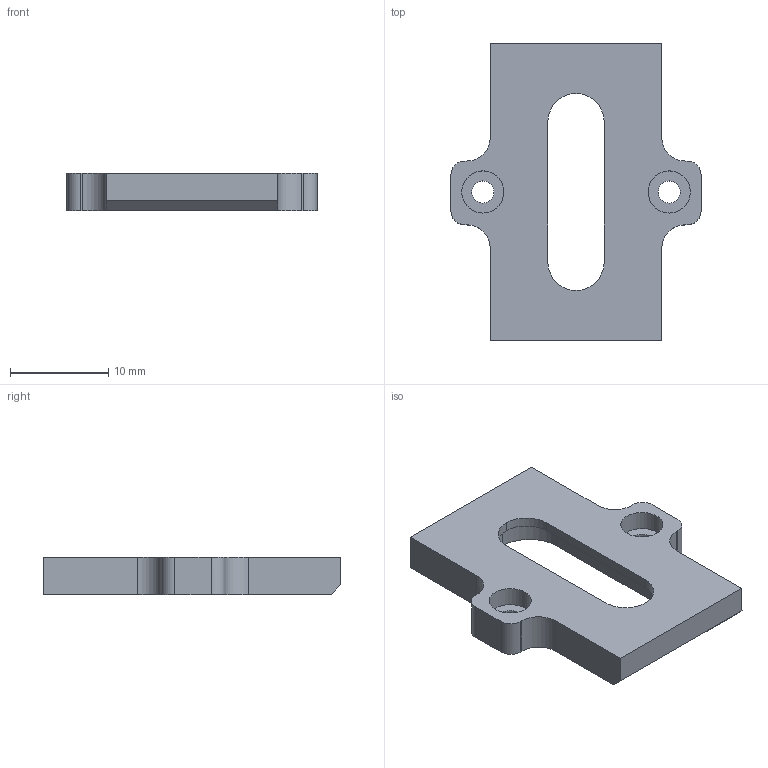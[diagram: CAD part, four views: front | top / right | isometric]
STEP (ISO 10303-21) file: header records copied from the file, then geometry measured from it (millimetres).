
FILE_DESCRIPTION(('HOOPS Exchange Step'),'2;1');
FILE_NAME('/private/var/mobile/Containers/Data/Application/4B1A7BF2-BF60-4167-B720-BE744F57E5F5/tmp/export/temp_export','2026-08-18T20:57:33+19:00',('mobile'),('Shapr3D Limited'),'HOOPS Exchange 2026.3','Shapr3D','Authorized');
FILE_SCHEMA( ('AP242_MANAGED_MODEL_BASED_3D_ENGINEERING_MIM_LF {1 0 10303 442 1 1 4}') );
Length unit declared in the file: millimetre
Products named in the file (3): UHG; Front; root
Assembly tree (2 placements, depth 3):
  root
    Front
      UHG
Bounding box: 25.5 x 30.39 x 3.85 mm (x, y, z)
Volume: 1510.7 mm3; surface area: 1614 mm2
Topology: 1 solids, 1 shells, 44 faces, 117 edges, 78 vertices
Faces by surface type: plane 24, cylinder 20
Full cylindrical faces by diameter (mm): 2.25 x2, 4.3 x2
Entity records: 1479 total; most frequent: DIRECTION 257, CARTESIAN_POINT 245, ORIENTED_EDGE 234, EDGE_CURVE 117, AXIS2_PLACEMENT_3D 90, VERTEX_POINT 78, VECTOR 77, LINE 77
